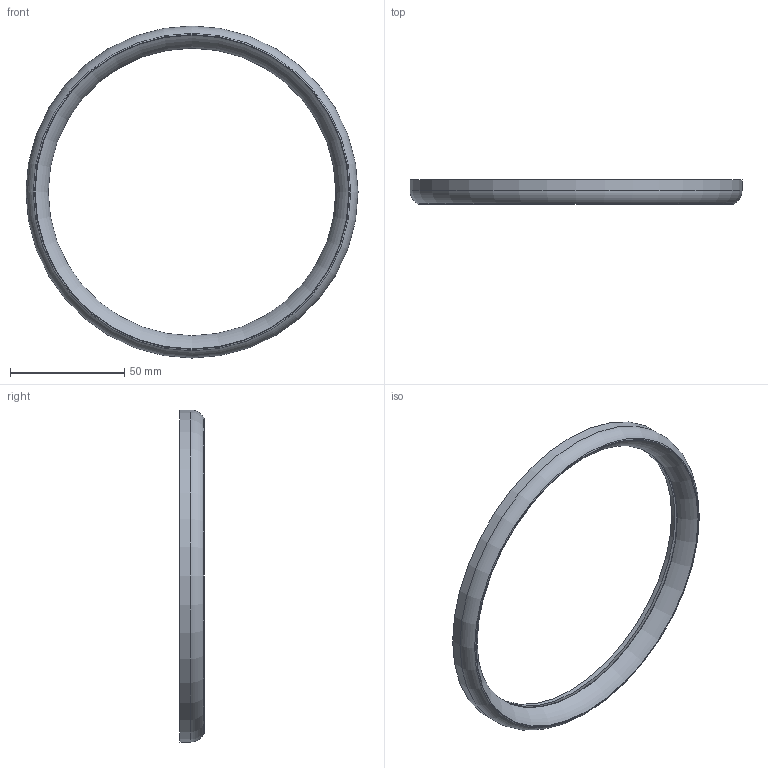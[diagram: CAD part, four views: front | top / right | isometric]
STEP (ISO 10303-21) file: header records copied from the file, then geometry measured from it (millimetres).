
FILE_DESCRIPTION (( 'STEP AP214' ), '1' );
FILE_NAME ('10ff.150.001.15R.STEP', '2026-03-26T19:16:48', ( '' ), ( '' ), 'SwSTEP 2.0', 'SolidWorks 2025', '' );
FILE_SCHEMA (( 'AUTOMOTIVE_DESIGN' ));
Length unit declared in the file: millimetre
Products named in the file (1): 10ff.150.001.15R
Bounding box: 145 x 10.5 x 145 mm (x, y, z)
Volume: 30779.3 mm3; surface area: 20766.3 mm2
Topology: 1 solids, 1 shells, 11 faces, 22 edges, 15 vertices
Faces by surface type: cylinder 4, plane 4, torus 3
Full cylindrical faces by diameter (mm): 125.579 x2, 139.731 x1, 145 x1
Entity records: 251 total; most frequent: DIRECTION 46, CARTESIAN_POINT 34, AXIS2_PLACEMENT_3D 23, ORIENTED_EDGE 22, EDGE_LOOP 22, FACE_OUTER_BOUND 18, CIRCLE 11, ADVANCED_FACE 11
